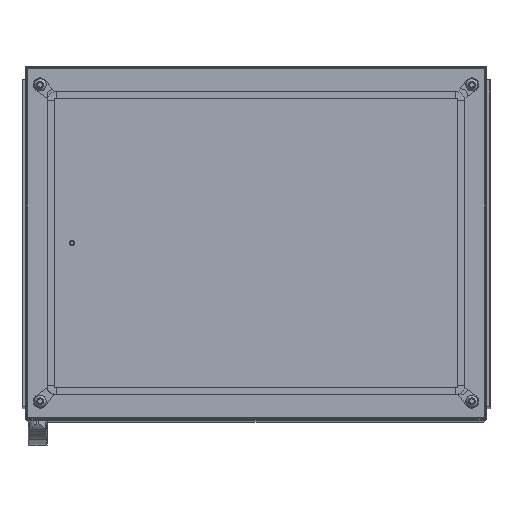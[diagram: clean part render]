
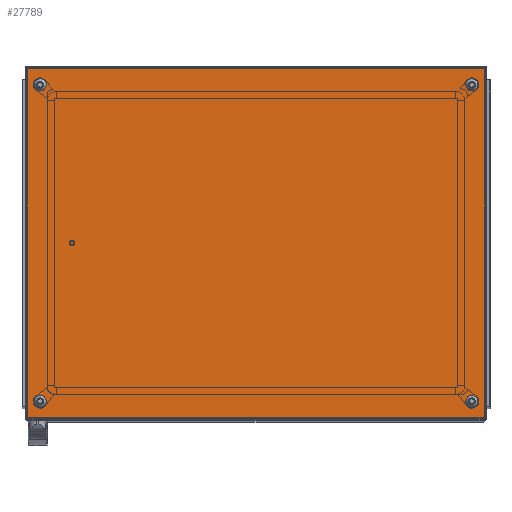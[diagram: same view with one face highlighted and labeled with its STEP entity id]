
A CAD part, top view. The second image highlights one B-rep face of the part: STEP entity #27789.
In plain terms, the highlighted planar face has unit normal (0, 0, 1).
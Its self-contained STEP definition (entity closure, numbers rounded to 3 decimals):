
#1363=CIRCLE('',#29830,6.);
#1364=CIRCLE('',#29831,6.);
#1365=CIRCLE('',#29832,6.);
#1366=CIRCLE('',#29833,6.);
#5175=ORIENTED_EDGE('',*,*,#11809,.F.);
#5176=ORIENTED_EDGE('',*,*,#11810,.F.);
#5177=ORIENTED_EDGE('',*,*,#11811,.F.);
#5178=ORIENTED_EDGE('',*,*,#11812,.F.);
#5179=ORIENTED_EDGE('',*,*,#11798,.T.);
#5180=ORIENTED_EDGE('',*,*,#11806,.T.);
#5181=ORIENTED_EDGE('',*,*,#11769,.F.);
#5182=ORIENTED_EDGE('',*,*,#11813,.F.);
#11769=EDGE_CURVE('',#15321,#15322,#18097,.T.);
#11798=EDGE_CURVE('',#15343,#15342,#18103,.T.);
#11806=EDGE_CURVE('',#15342,#15322,#18108,.T.);
#11809=EDGE_CURVE('',#15344,#15344,#1363,.T.);
#11810=EDGE_CURVE('',#15345,#15345,#1364,.T.);
#11811=EDGE_CURVE('',#15346,#15346,#1365,.T.);
#11812=EDGE_CURVE('',#15347,#15347,#1366,.T.);
#11813=EDGE_CURVE('',#15343,#15321,#18111,.T.);
#15321=VERTEX_POINT('',#43325);
#15322=VERTEX_POINT('',#43327);
#15342=VERTEX_POINT('',#43401);
#15343=VERTEX_POINT('',#43403);
#15344=VERTEX_POINT('',#43420);
#15345=VERTEX_POINT('',#43422);
#15346=VERTEX_POINT('',#43424);
#15347=VERTEX_POINT('',#43426);
#18097=LINE('',#43326,#20506);
#18103=LINE('',#43402,#20512);
#18108=LINE('',#43414,#20517);
#18111=LINE('',#43427,#20520);
#20506=VECTOR('',#34710,1000.);
#20512=VECTOR('',#34764,1000.);
#20517=VECTOR('',#34781,1000.);
#20520=VECTOR('',#34796,1000.);
#22613=EDGE_LOOP('',(#5175));
#22614=EDGE_LOOP('',(#5176));
#22615=EDGE_LOOP('',(#5177));
#22616=EDGE_LOOP('',(#5178));
#22617=EDGE_LOOP('',(#5179,#5180,#5181,#5182));
#24908=FACE_BOUND('',#22613,.T.);
#24909=FACE_BOUND('',#22614,.T.);
#24910=FACE_BOUND('',#22615,.T.);
#24911=FACE_BOUND('',#22616,.T.);
#24912=FACE_BOUND('',#22617,.T.);
#26860=PLANE('',#29829);
#27789=ADVANCED_FACE('',(#24908,#24909,#24910,#24911,#24912),#26860,.T.);
#29829=AXIS2_PLACEMENT_3D('',#43418,#34786,#34787);
#29830=AXIS2_PLACEMENT_3D('',#43419,#34788,#34789);
#29831=AXIS2_PLACEMENT_3D('',#43421,#34790,#34791);
#29832=AXIS2_PLACEMENT_3D('',#43423,#34792,#34793);
#29833=AXIS2_PLACEMENT_3D('',#43425,#34794,#34795);
#34710=DIRECTION('',(-1.,0.,0.));
#34764=DIRECTION('',(-1.,0.,0.));
#34781=DIRECTION('',(0.,-1.,0.));
#34786=DIRECTION('',(0.,0.,1.));
#34787=DIRECTION('',(1.,0.,0.));
#34788=DIRECTION('',(0.,0.,1.));
#34789=DIRECTION('',(1.,0.,0.));
#34790=DIRECTION('',(0.,0.,1.));
#34791=DIRECTION('',(1.,0.,0.));
#34792=DIRECTION('',(0.,0.,1.));
#34793=DIRECTION('',(1.,0.,0.));
#34794=DIRECTION('',(0.,0.,1.));
#34795=DIRECTION('',(1.,0.,0.));
#34796=DIRECTION('',(0.,-1.,0.));
#43325=CARTESIAN_POINT('',(396.5,-302.5,20.));
#43326=CARTESIAN_POINT('',(400.,-302.5,20.));
#43327=CARTESIAN_POINT('',(-396.5,-302.5,20.));
#43401=CARTESIAN_POINT('',(-396.5,302.5,20.));
#43402=CARTESIAN_POINT('',(400.,302.5,20.));
#43403=CARTESIAN_POINT('',(396.5,302.5,20.));
#43414=CARTESIAN_POINT('',(-396.5,305.5,20.));
#43418=CARTESIAN_POINT('',(-396.5,-302.5,20.));
#43419=CARTESIAN_POINT('',(374.5,-274.5,20.));
#43420=CARTESIAN_POINT('',(380.5,-274.5,20.));
#43421=CARTESIAN_POINT('',(-374.5,274.5,20.));
#43422=CARTESIAN_POINT('',(-368.5,274.5,20.));
#43423=CARTESIAN_POINT('',(374.5,274.5,20.));
#43424=CARTESIAN_POINT('',(380.5,274.5,20.));
#43425=CARTESIAN_POINT('',(-374.5,-274.5,20.));
#43426=CARTESIAN_POINT('',(-368.5,-274.5,20.));
#43427=CARTESIAN_POINT('',(396.5,305.5,20.));
